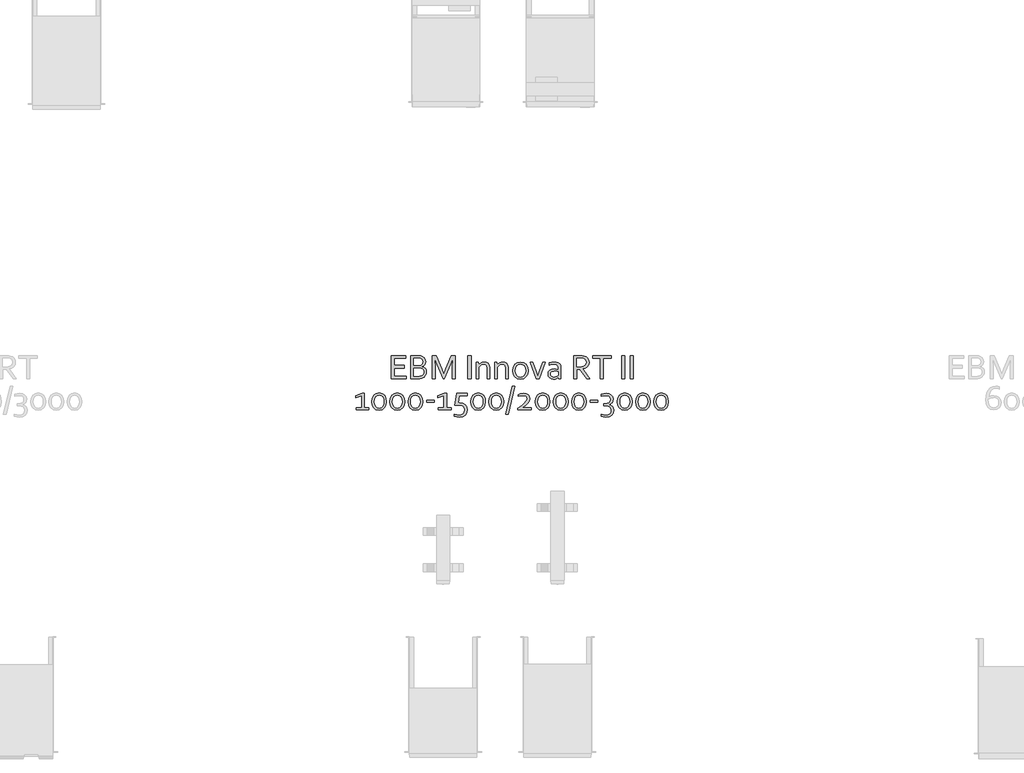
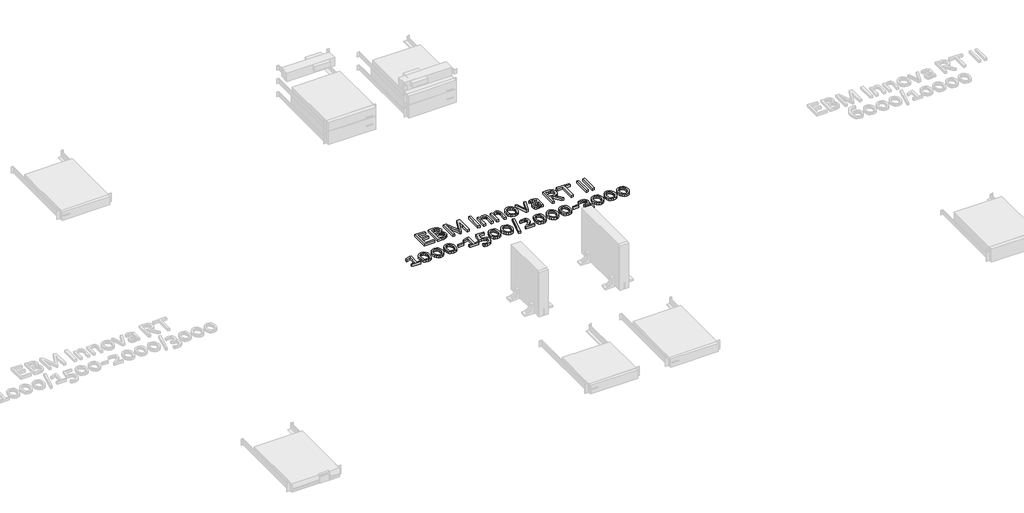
# One storey, part 6 of 14: 1 proxy.
"""IFC4 building model written with IfcOpenShell, lengths in millimetres."""

from ifc_helpers import new_model, si_unit, origin, origin_with_axes, place, context, project, spatial, polyline, outline, extrude, element, save

model = new_model("IFC4")

# Units and contexts
model_context = context("Model", 3, world=origin())
ifc_project = project(units=[si_unit("LENGTHUNIT", "METRE", prefix="MILLI")], contexts=[model_context])

# Site, building, storey
site = spatial("IfcSite", under=ifc_project)
building = spatial("IfcBuilding", under=site)
storey = spatial("IfcBuildingStorey", under=building, Name="Этаж 01", Elevation=0.0)

# Proxy
placement = place(None, origin())
element("IfcBuildingElementProxy", 1, Name="150 мм Corbel", ObjectType="150 мм Corbel", at=placement, inside=storey, context=model_context, shape_type="SweptSolid", body=[
    extrude(outline(polyline([(11846.1475563, -7548.6877316), (11923.0607134, -7548.6877316), (11923.0607134, -7565.4878752), (11826.5473888, -7565.4878752), (11826.5473888, -7414.2865833), (11918.9044279, -7414.2865833), (11918.9044279, -7431.0867269), (11846.1475563, -7431.0867269), (11846.1475563, -7478.6871335), (11910.8543591, -7478.6871335), (11910.8543591, -7495.4872771), (11846.1475563, -7495.4872771), (11846.1475563, -7548.6877316)])), origin_with_axes(), (0.0, 0.0, 1.0), 20.0),
    extrude(outline(polyline([(12023.8615746, -7486.1246971), (12036.3523063, -7490.1278563), (12045.7586367, -7497.1497913), (12051.4899357, -7507.3217532), (12053.3493266, -7520.7749931), (12051.8399387, -7532.0407144), (12046.8086457, -7543.4814371), (12037.5773168, -7553.7190246), (12023.4240709, -7561.37534), (12009.0301979, -7564.5691173), (11990.0425357, -7565.4878752), (11952.5484653, -7565.4878752), (11952.5484653, -7414.2865833), (11988.9925267, -7414.2865833), (11998.0707293, -7414.4615848), (12005.5957936, -7414.9647141), (12011.9833481, -7415.7959712), (12017.5615208, -7416.9553561), (12030.0303773, -7422.1616506), (12039.5679588, -7430.0148427), (12045.6273856, -7440.3836813), (12047.7492787, -7453.0056641), (12046.4586427, -7463.4838786), (12042.3023572, -7472.7370827), (12034.908544, -7480.3277726), (12023.8615746, -7486.1246971)]), holes=[polyline([(11999.2738645, -7478.6871335), (12008.3083167, -7478.1840042), (12015.1990006, -7476.7183667), (12027.186603, -7468.1214183), (12030.9491352, -7454.3181753), (12027.0116015, -7440.9961865), (12014.6739961, -7433.2742455), (12005.0489139, -7431.5898561), (11992.1425536, -7431.0867269), (11972.1486328, -7431.0867269), (11972.1486328, -7478.6871335), (11999.2738645, -7478.6871335)]), polyline([(11972.1486328, -7495.4872771), (11972.1486328, -7548.6877316), (11993.4550648, -7548.6877316), (12007.5426852, -7547.9439753), (12018.5677794, -7545.5814551), (12027.0116015, -7541.1845425), (12032.5897742, -7535.2344917), (12035.6304252, -7528.3219326), (12036.549183, -7520.9062443), (12035.5647996, -7512.7030492), (12032.3710223, -7505.8342405), (12026.5303474, -7500.5185701), (12017.5177704, -7496.9747898), (12010.0802069, -7495.8372801), (11999.7551187, -7495.4872771), (11972.1486328, -7495.4872771)])]), origin_with_axes(), (0.0, 0.0, 1.0), 20.0),
    extrude(outline(polyline([(12169.5940697, -7565.4878752), (12161.1064972, -7565.4878752), (12124.093681, -7475.1871036), (12108.6935494, -7434.6305071), (12109.349805, -7492.3810005), (12109.349805, -7565.4878752), (12089.7496375, -7565.4878752), (12089.7496375, -7414.2865833), (12116.2186137, -7414.2865833), (12151.6564165, -7499.8185641), (12165.0440309, -7535.2126165), (12179.0004001, -7499.8185641), (12214.4819532, -7414.2865833), (12240.9509294, -7414.2865833), (12240.9509294, -7565.4878752), (12221.3507619, -7565.4878752), (12221.3507619, -7492.3810005), (12222.9257754, -7434.6305071), (12206.606886, -7475.1871036), (12169.5940697, -7565.4878752)])), origin_with_axes(), (0.0, 0.0, 1.0), 20.0),
    extrude(outline(polyline([(12322.1516232, -7565.4878752), (12322.1516232, -7414.2865833), (12341.7517906, -7414.2865833), (12341.7517906, -7565.4878752), (12322.1516232, -7565.4878752)])), origin_with_axes(), (0.0, 0.0, 1.0), 20.0),
    extrude(outline(polyline([(12392.0647205, -7473.8745924), (12398.7804029, -7467.0057837), (12406.633595, -7461.3838607), (12416.1493013, -7457.6213286), (12427.4150225, -7456.2869422), (12441.0213888, -7458.2994594), (12452.0246078, -7464.7963899), (12459.4184209, -7476.4996149), (12462.1528193, -7494.2622666), (12462.1528193, -7565.4878752), (12445.3526758, -7565.4878752), (12445.3526758, -7496.4060349), (12444.0073518, -7484.4457765), (12439.9713798, -7476.3902389), (12433.3650733, -7471.8128561), (12424.308746, -7470.2870618), (12406.7648461, -7475.5152314), (12392.1522212, -7489.8872292), (12392.1522212, -7565.4878752), (12375.3520777, -7565.4878752), (12375.3520777, -7459.0869661), (12388.6959417, -7459.0869661), (12392.0647205, -7473.8745924)])), origin_with_axes(), (0.0, 0.0, 1.0), 20.0),
    extrude(outline(polyline([(12512.4657492, -7473.8745924), (12519.1814315, -7467.0057837), (12527.0346236, -7461.3838607), (12536.5503299, -7457.6213286), (12547.8160512, -7456.2869422), (12561.4224174, -7458.2994594), (12572.4256364, -7464.7963899), (12579.8194496, -7476.4996149), (12582.553848, -7494.2622666), (12582.553848, -7565.4878752), (12565.7537044, -7565.4878752), (12565.7537044, -7496.4060349), (12564.4083805, -7484.4457765), (12560.3724085, -7476.3902389), (12553.766102, -7471.8128561), (12544.7097746, -7470.2870618), (12527.1658748, -7475.5152314), (12512.5532499, -7489.8872292), (12512.5532499, -7565.4878752), (12495.7531064, -7565.4878752), (12495.7531064, -7459.0869661), (12509.0969704, -7459.0869661), (12512.4657492, -7473.8745924)])), origin_with_axes(), (0.0, 0.0, 1.0), 20.0),
    extrude(outline(polyline([(12711.3549484, -7512.4186717), (12707.789293, -7535.2344917), (12697.6829566, -7552.8877675), (12681.8671965, -7564.2628647), (12661.0857689, -7568.2878991), (12639.8887128, -7564.2628647), (12624.0073272, -7552.8877675), (12614.0103667, -7535.2344917), (12610.5540872, -7512.4186717), (12614.1197427, -7489.4278503), (12624.226079, -7471.7308241), (12640.1074647, -7460.3119765), (12660.9545178, -7456.2869422), (12682.0640732, -7460.3119765), (12697.9454589, -7471.7308241), (12707.8986689, -7489.4278503), (12711.3549484, -7512.4186717)]), holes=[polyline([(12694.5548049, -7512.4186717), (12692.0610336, -7494.546644), (12685.082849, -7481.312156), (12674.429633, -7473.0870857), (12660.9545178, -7470.2870618), (12647.4794027, -7473.0870857), (12636.8261867, -7481.312156), (12629.8480021, -7494.546644), (12627.3542307, -7512.4186717), (12629.8480021, -7530.1594483), (12636.8918122, -7543.3283108), (12647.5887786, -7551.4877555), (12661.0857689, -7554.2877795), (12674.4952585, -7551.4877555), (12685.082849, -7543.3283108), (12692.0610336, -7530.1594483), (12694.5548049, -7512.4186717)])]), origin_with_axes(), (0.0, 0.0, 1.0), 20.0),
    extrude(outline(polyline([(12774.267986, -7547.9002249), (12785.0305779, -7518.2374715), (12806.5557618, -7459.0869661), (12823.3559054, -7459.0869661), (12783.3243133, -7565.4878752), (12765.3866601, -7565.4878752), (12725.3550681, -7459.0869661), (12742.1552116, -7459.0869661), (12763.5491444, -7518.2374715), (12774.267986, -7547.9002249)])), origin_with_axes(), (0.0, 0.0, 1.0), 20.0),
    extrude(outline(polyline([(12907.8816275, -7553.7190246), (12902.084703, -7559.034695), (12894.6690146, -7563.7597354), (12885.4814361, -7567.0628886), (12874.8500953, -7568.2878991), (12860.8281005, -7566.0347548), (12849.8686319, -7559.4065732), (12842.7154458, -7548.7533572), (12840.1560489, -7534.5126105), (12842.9998232, -7520.5124909), (12850.9623912, -7510.0342764), (12863.2781214, -7503.4060947), (12879.1813823, -7501.0873249), (12894.4283876, -7502.5748376), (12906.9191193, -7505.9436164), (12907.356623, -7498.3310514), (12906.7878682, -7489.9966052), (12904.8628517, -7483.6309258), (12895.5877725, -7474.0714691), (12878.3063748, -7470.2870618), (12863.1031199, -7471.7745745), (12848.949874, -7475.8871096), (12848.949874, -7462.1932426), (12855.271803, -7459.8088472), (12862.9499936, -7457.905706), (12871.4594413, -7456.7025707), (12880.4501432, -7456.2869422), (12895.0846432, -7457.7142981), (12906.7003674, -7461.9963659), (12915.3629414, -7468.6300164), (12921.1379908, -7477.1121201), (12923.4567606, -7485.0090626), (12924.1567666, -7494.4810185), (12924.1567666, -7565.4878752), (12909.7628936, -7565.4878752), (12907.8816275, -7553.7190246)]), holes=[polyline([(12907.356623, -7519.0687286), (12895.7408988, -7516.4655813), (12880.9751476, -7515.0874445), (12863.3218718, -7519.8562353), (12858.5476123, -7525.9047245), (12856.9561924, -7534.5126105), (12858.5530811, -7543.2626853), (12862.9281185, -7549.4533632), (12869.5125497, -7553.0846442), (12877.6501192, -7554.2877795), (12888.2377097, -7552.6471404), (12896.9440341, -7548.731482), (12903.4190894, -7544.1814431), (12907.356623, -7540.6376628), (12907.356623, -7519.0687286)])]), origin_with_axes(), (0.0, 0.0, 1.0), 20.0),
    extrude(outline(polyline([(13024.9576278, -7503.8873488), (13024.9576278, -7565.4878752), (13005.3574603, -7565.4878752), (13005.3574603, -7414.2865833), (13044.3390434, -7414.2865833), (13061.1391869, -7415.0303397), (13073.783045, -7417.3928599), (13087.6737886, -7423.2554099), (13097.8457505, -7432.1804862), (13104.0801788, -7443.9383992), (13106.1583216, -7458.2994594), (13103.2489217, -7474.880851), (13095.0676018, -7487.5684594), (13082.445619, -7496.3622846), (13066.1267295, -7501.3935775), (13111.7583694, -7565.4878752), (13092.158202, -7565.4878752), (13046.7015636, -7503.8873488), (13024.9576278, -7503.8873488)]), holes=[polyline([(13024.9576278, -7431.0867269), (13024.9576278, -7487.0872053), (13042.6327788, -7487.0872053), (13056.6766488, -7486.5184504), (13067.1329881, -7484.4621829), (13081.5049859, -7474.9683518), (13086.5581541, -7457.9494564), (13081.7237378, -7442.111821), (13068.6642512, -7433.4929974), (13059.2360457, -7431.6554817), (13045.2578012, -7431.0867269), (13024.9576278, -7431.0867269)])]), origin_with_axes(), (0.0, 0.0, 1.0), 20.0),
    extrude(outline(polyline([(13198.559111, -7565.4878752), (13178.9589436, -7565.4878752), (13178.9589436, -7431.0867269), (13128.8647656, -7431.0867269), (13128.8647656, -7414.2865833), (13248.653289, -7414.2865833), (13248.653289, -7431.0867269), (13198.559111, -7431.0867269), (13198.559111, -7565.4878752)])), origin_with_axes(), (0.0, 0.0, 1.0), 20.0),
    extrude(outline(polyline([(13316.1601158, -7565.4878752), (13316.1601158, -7414.2865833), (13335.7602832, -7414.2865833), (13335.7602832, -7565.4878752), (13316.1601158, -7565.4878752)])), origin_with_axes(), (0.0, 0.0, 1.0), 20.0),
    extrude(outline(polyline([(13372.1605942, -7565.4878752), (13372.1605942, -7414.2865833), (13391.7607617, -7414.2865833), (13391.7607617, -7565.4878752), (13372.1605942, -7565.4878752)])), origin_with_axes(), (0.0, 0.0, 1.0), 20.0),
    extrude(outline(polyline([(11634.7457501, -7751.8881861), (11634.7457501, -7673.4875163), (11594.2766543, -7687.4876359), (11594.2766543, -7673.4875163), (11637.0207695, -7659.4873967), (11651.5458936, -7659.4873967), (11651.5458936, -7751.8881861), (11680.9023944, -7751.8881861), (11680.9023944, -7765.8883058), (11598.9579443, -7765.8883058), (11598.9579443, -7751.8881861), (11634.7457501, -7751.8881861)])), origin_with_axes(), (0.0, 0.0, 1.0), 20.0),
    extrude(outline(polyline([(11794.3471137, -7712.8191023), (11791.1314612, -7734.9130411), (11781.7907564, -7752.6538177), (11766.8937541, -7764.4226682), (11746.8342077, -7768.6883297), (11726.380908, -7764.4226682), (11711.4182802, -7752.6538177), (11702.2525768, -7734.9130411), (11699.1463003, -7712.8191023), (11702.3619528, -7690.5720373), (11711.7026576, -7672.7656351), (11726.6652854, -7660.9530342), (11746.746707, -7656.6873728), (11767.112506, -7660.9530342), (11782.0751338, -7672.7656351), (11791.2408371, -7690.5720373), (11794.3471137, -7712.8191023)]), holes=[polyline([(11777.5469701, -7712.8191023), (11775.3594515, -7695.1658265), (11769.1687736, -7681.9313384), (11759.499941, -7673.5968922), (11746.746707, -7670.6874924), (11733.993473, -7673.5968922), (11724.28089, -7681.9313384), (11718.0902122, -7695.1658265), (11715.9464438, -7712.8191023), (11718.1339625, -7730.3192519), (11724.3246404, -7743.5099896), (11734.0590986, -7751.7788102), (11746.8779581, -7754.6882101), (11759.6093169, -7751.7788102), (11769.2781495, -7743.5099896), (11775.4032018, -7730.3192519), (11777.5469701, -7712.8191023)])]), origin_with_axes(), (0.0, 0.0, 1.0), 20.0),
    extrude(outline(polyline([(11911.9481184, -7712.8191023), (11908.732466, -7734.9130411), (11899.3917612, -7752.6538177), (11884.4947589, -7764.4226682), (11864.4352125, -7768.6883297), (11843.9819128, -7764.4226682), (11829.0192849, -7752.6538177), (11819.8535816, -7734.9130411), (11816.7473051, -7712.8191023), (11819.9629575, -7690.5720373), (11829.3036623, -7672.7656351), (11844.2662902, -7660.9530342), (11864.3477118, -7656.6873728), (11884.7135108, -7660.9530342), (11899.6761386, -7672.7656351), (11908.8418419, -7690.5720373), (11911.9481184, -7712.8191023)]), holes=[polyline([(11895.1479749, -7712.8191023), (11892.9604562, -7695.1658265), (11886.7697783, -7681.9313384), (11877.1009457, -7673.5968922), (11864.3477118, -7670.6874924), (11851.5944778, -7673.5968922), (11841.8818948, -7681.9313384), (11835.6912169, -7695.1658265), (11833.5474486, -7712.8191023), (11835.7349673, -7730.3192519), (11841.9256452, -7743.5099896), (11851.6601034, -7751.7788102), (11864.4789629, -7754.6882101), (11877.2103217, -7751.7788102), (11886.8791543, -7743.5099896), (11893.0042066, -7730.3192519), (11895.1479749, -7712.8191023)])]), origin_with_axes(), (0.0, 0.0, 1.0), 20.0),
    extrude(outline(polyline([(12029.5491232, -7712.8191023), (12026.3334707, -7734.9130411), (12016.9927659, -7752.6538177), (12002.0957637, -7764.4226682), (11982.0362173, -7768.6883297), (11961.5829175, -7764.4226682), (11946.6202897, -7752.6538177), (11937.4545864, -7734.9130411), (11934.3483098, -7712.8191023), (11937.5639623, -7690.5720373), (11946.9046671, -7672.7656351), (11961.8672949, -7660.9530342), (11981.9487165, -7656.6873728), (12002.3145155, -7660.9530342), (12017.2771434, -7672.7656351), (12026.4428467, -7690.5720373), (12029.5491232, -7712.8191023)]), holes=[polyline([(12012.7489797, -7712.8191023), (12010.561461, -7695.1658265), (12004.3707831, -7681.9313384), (11994.7019505, -7673.5968922), (11981.9487165, -7670.6874924), (11969.1954826, -7673.5968922), (11959.4828996, -7681.9313384), (11953.2922217, -7695.1658265), (11951.1484534, -7712.8191023), (11953.3359721, -7730.3192519), (11959.5266499, -7743.5099896), (11969.2611081, -7751.7788102), (11982.0799676, -7754.6882101), (11994.8113264, -7751.7788102), (12004.480159, -7743.5099896), (12010.6052114, -7730.3192519), (12012.7489797, -7712.8191023)])]), origin_with_axes(), (0.0, 0.0, 1.0), 20.0),
    extrude(outline(polyline([(12054.224334, -7704.2877795), (12103.6622564, -7704.2877795), (12103.6622564, -7718.2878991), (12054.224334, -7718.2878991), (12054.224334, -7704.2877795)])), origin_with_axes(), (0.0, 0.0, 1.0), 20.0),
    extrude(outline(polyline([(12166.7502954, -7751.8881861), (12166.7502954, -7673.4875163), (12126.2811997, -7687.4876359), (12126.2811997, -7673.4875163), (12169.0253149, -7659.4873967), (12183.550439, -7659.4873967), (12183.550439, -7751.8881861), (12212.9069398, -7751.8881861), (12212.9069398, -7765.8883058), (12130.9624897, -7765.8883058), (12130.9624897, -7751.8881861), (12166.7502954, -7751.8881861)])), origin_with_axes(), (0.0, 0.0, 1.0), 20.0),
    extrude(outline(polyline([(12317.9515873, -7765.7570546), (12314.4734326, -7784.8103424), (12304.2795955, -7799.9260966), (12287.3482008, -7809.9011818), (12264.1386275, -7813.4887125), (12247.8853636, -7812.0011997), (12233.99462, -7807.4511609), (12233.99462, -7793.888545), (12249.679129, -7798.3292079), (12263.3511208, -7799.4885928), (12279.9543876, -7796.8635704), (12291.7232382, -7789.7103843), (12298.7889235, -7779.1665442), (12301.1514437, -7766.5445614), (12298.6576724, -7752.6100673), (12290.8482307, -7742.8318588), (12277.1981141, -7737.0130591), (12257.0948173, -7735.0880426), (12237.3196484, -7736.2255523), (12247.9509892, -7659.4873967), (12319.0015962, -7659.4873967), (12319.0015962, -7673.4875163), (12264.7511327, -7673.4875163), (12258.4948293, -7721.3066749), (12264.7511327, -7721.087923), (12287.5013271, -7724.1066988), (12304.1920947, -7732.8348984), (12314.4515574, -7746.835018), (12317.9515873, -7765.7570546)])), origin_with_axes(), (0.0, 0.0, 1.0), 20.0),
    extrude(outline(polyline([(12435.552592, -7712.8191023), (12432.3369396, -7734.9130411), (12422.9962347, -7752.6538177), (12408.0992325, -7764.4226682), (12388.0396861, -7768.6883297), (12367.5863863, -7764.4226682), (12352.6237585, -7752.6538177), (12343.4580552, -7734.9130411), (12340.3517787, -7712.8191023), (12343.5674311, -7690.5720373), (12352.9081359, -7672.7656351), (12367.8707638, -7660.9530342), (12387.9521853, -7656.6873728), (12408.3179843, -7660.9530342), (12423.2806122, -7672.7656351), (12432.4463155, -7690.5720373), (12435.552592, -7712.8191023)]), holes=[polyline([(12418.7524485, -7712.8191023), (12416.5649298, -7695.1658265), (12410.3742519, -7681.9313384), (12400.7054193, -7673.5968922), (12387.9521853, -7670.6874924), (12375.1989514, -7673.5968922), (12365.4863684, -7681.9313384), (12359.2956905, -7695.1658265), (12357.1519222, -7712.8191023), (12359.3394409, -7730.3192519), (12365.5301188, -7743.5099896), (12375.2645769, -7751.7788102), (12388.0834365, -7754.6882101), (12400.8147952, -7751.7788102), (12410.4836278, -7743.5099896), (12416.6086802, -7730.3192519), (12418.7524485, -7712.8191023)])]), origin_with_axes(), (0.0, 0.0, 1.0), 20.0),
    extrude(outline(polyline([(12553.1535968, -7712.8191023), (12549.9379443, -7734.9130411), (12540.5972395, -7752.6538177), (12525.7002372, -7764.4226682), (12505.6406908, -7768.6883297), (12485.1873911, -7764.4226682), (12470.2247633, -7752.6538177), (12461.05906, -7734.9130411), (12457.9527834, -7712.8191023), (12461.1684359, -7690.5720373), (12470.5091407, -7672.7656351), (12485.4717685, -7660.9530342), (12505.5531901, -7656.6873728), (12525.9189891, -7660.9530342), (12540.8816169, -7672.7656351), (12550.0473203, -7690.5720373), (12553.1535968, -7712.8191023)]), holes=[polyline([(12536.3534533, -7712.8191023), (12534.1659346, -7695.1658265), (12527.9752567, -7681.9313384), (12518.3064241, -7673.5968922), (12505.5531901, -7670.6874924), (12492.7999561, -7673.5968922), (12483.0873732, -7681.9313384), (12476.8966953, -7695.1658265), (12474.752927, -7712.8191023), (12476.9404456, -7730.3192519), (12483.1311235, -7743.5099896), (12492.8655817, -7751.7788102), (12505.6844412, -7754.6882101), (12518.4158, -7751.7788102), (12528.0846326, -7743.5099896), (12534.2096849, -7730.3192519), (12536.3534533, -7712.8191023)])]), origin_with_axes(), (0.0, 0.0, 1.0), 20.0),
    extrude(outline(polyline([(12566.3662097, -7793.888545), (12608.9790738, -7614.6870139), (12625.5604654, -7614.6870139), (12582.9476013, -7793.888545), (12566.3662097, -7793.888545)])), origin_with_axes(), (0.0, 0.0, 1.0), 20.0),
    extrude(outline(polyline([(12673.3358736, -7752.3256899), (12696.5235717, -7751.8881861), (12730.2113595, -7751.8881861), (12730.2113595, -7765.8883058), (12644.941881, -7765.8883058), (12644.941881, -7756.3507243), (12668.7202092, -7738.5661973), (12687.4891195, -7722.7504372), (12699.8704753, -7708.0065612), (12704.3548886, -7693.5689379), (12702.785344, -7684.9610518), (12698.07671, -7678.6500604), (12690.4258634, -7674.7781523), (12680.0296808, -7673.4875163), (12663.0545358, -7675.084405), (12646.0793907, -7679.0875642), (12646.0793907, -7667.012461), (12661.8295253, -7661.7405409), (12682.392201, -7659.4873967), (12698.5360889, -7661.7186658), (12710.7643184, -7668.2155963), (12718.442509, -7678.7594363), (12721.1550322, -7693.2626853), (12717.6112519, -7709.6253251), (12707.8111682, -7724.2379499), (12692.5860381, -7738.063068), (12673.3358736, -7752.3256899)])), origin_with_axes(), (0.0, 0.0, 1.0), 20.0),
    extrude(outline(polyline([(12852.7561565, -7712.8191023), (12849.5405041, -7734.9130411), (12840.1997993, -7752.6538177), (12825.302797, -7764.4226682), (12805.2432506, -7768.6883297), (12784.7899509, -7764.4226682), (12769.827323, -7752.6538177), (12760.6616197, -7734.9130411), (12757.5553432, -7712.8191023), (12760.7709956, -7690.5720373), (12770.1117004, -7672.7656351), (12785.0743283, -7660.9530342), (12805.1557499, -7656.6873728), (12825.5215489, -7660.9530342), (12840.4841767, -7672.7656351), (12849.64988, -7690.5720373), (12852.7561565, -7712.8191023)]), holes=[polyline([(12835.956013, -7712.8191023), (12833.7684943, -7695.1658265), (12827.5778164, -7681.9313384), (12817.9089838, -7673.5968922), (12805.1557499, -7670.6874924), (12792.4025159, -7673.5968922), (12782.6899329, -7681.9313384), (12776.499255, -7695.1658265), (12774.3554867, -7712.8191023), (12776.5430054, -7730.3192519), (12782.7336833, -7743.5099896), (12792.4681415, -7751.7788102), (12805.287001, -7754.6882101), (12818.0183597, -7751.7788102), (12827.6871924, -7743.5099896), (12833.8122447, -7730.3192519), (12835.956013, -7712.8191023)])]), origin_with_axes(), (0.0, 0.0, 1.0), 20.0),
    extrude(outline(polyline([(12970.3571613, -7712.8191023), (12967.1415088, -7734.9130411), (12957.800804, -7752.6538177), (12942.9038017, -7764.4226682), (12922.8442554, -7768.6883297), (12902.3909556, -7764.4226682), (12887.4283278, -7752.6538177), (12878.2626245, -7734.9130411), (12875.1563479, -7712.8191023), (12878.3720004, -7690.5720373), (12887.7127052, -7672.7656351), (12902.675333, -7660.9530342), (12922.7567546, -7656.6873728), (12943.1225536, -7660.9530342), (12958.0851815, -7672.7656351), (12967.2508848, -7690.5720373), (12970.3571613, -7712.8191023)]), holes=[polyline([(12953.5570178, -7712.8191023), (12951.3694991, -7695.1658265), (12945.1788212, -7681.9313384), (12935.5099886, -7673.5968922), (12922.7567546, -7670.6874924), (12910.0035207, -7673.5968922), (12900.2909377, -7681.9313384), (12894.1002598, -7695.1658265), (12891.9564915, -7712.8191023), (12894.1440102, -7730.3192519), (12900.334688, -7743.5099896), (12910.0691462, -7751.7788102), (12922.8880057, -7754.6882101), (12935.6193645, -7751.7788102), (12945.2881971, -7743.5099896), (12951.4132495, -7730.3192519), (12953.5570178, -7712.8191023)])]), origin_with_axes(), (0.0, 0.0, 1.0), 20.0),
    extrude(outline(polyline([(13087.9581661, -7712.8191023), (13084.7425136, -7734.9130411), (13075.4018088, -7752.6538177), (13060.5048065, -7764.4226682), (13040.4452601, -7768.6883297), (13019.9919604, -7764.4226682), (13005.0293325, -7752.6538177), (12995.8636292, -7734.9130411), (12992.7573527, -7712.8191023), (12995.9730052, -7690.5720373), (13005.31371, -7672.7656351), (13020.2763378, -7660.9530342), (13040.3577594, -7656.6873728), (13060.7235584, -7660.9530342), (13075.6861862, -7672.7656351), (13084.8518895, -7690.5720373), (13087.9581661, -7712.8191023)]), holes=[polyline([(13071.1580225, -7712.8191023), (13068.9705038, -7695.1658265), (13062.7798259, -7681.9313384), (13053.1109933, -7673.5968922), (13040.3577594, -7670.6874924), (13027.6045254, -7673.5968922), (13017.8919424, -7681.9313384), (13011.7012645, -7695.1658265), (13009.5574962, -7712.8191023), (13011.7450149, -7730.3192519), (13017.9356928, -7743.5099896), (13027.670151, -7751.7788102), (13040.4890105, -7754.6882101), (13053.2203693, -7751.7788102), (13062.8892019, -7743.5099896), (13069.0142542, -7730.3192519), (13071.1580225, -7712.8191023)])]), origin_with_axes(), (0.0, 0.0, 1.0), 20.0),
    extrude(outline(polyline([(13112.6333769, -7704.2877795), (13162.0712993, -7704.2877795), (13162.0712993, -7718.2878991), (13112.6333769, -7718.2878991), (13112.6333769, -7704.2877795)])), origin_with_axes(), (0.0, 0.0, 1.0), 20.0),
    extrude(outline(polyline([(13235.8781799, -7732.6817721), (13247.2532771, -7735.8099238), (13256.8783593, -7742.5256062), (13264.1190462, -7753.2663229), (13267.1596971, -7768.2070756), (13263.9440447, -7786.8884852), (13254.4064632, -7801.1948574), (13238.1750745, -7810.2949352), (13215.2717538, -7813.4887125), (13197.9247306, -7811.9574494), (13183.2902306, -7807.4511609), (13183.2902306, -7793.888545), (13199.2372418, -7798.1760816), (13214.002993, -7799.4885928), (13231.2843906, -7796.9073208), (13242.4407359, -7790.1041377), (13248.5001627, -7780.3259291), (13250.3595536, -7768.7320801), (13247.9040639, -7755.9296269), (13240.5375947, -7747.2725217), (13228.7742129, -7742.3341983), (13213.1279855, -7740.6880905), (13201.2278838, -7740.6880905), (13201.2278838, -7726.6879708), (13208.1841933, -7726.6879708), (13224.7437097, -7724.5004522), (13236.1188069, -7718.4629006), (13242.681363, -7709.384698), (13244.7595058, -7698.1189768), (13242.4626111, -7687.0938826), (13236.1844325, -7679.4375671), (13226.8218525, -7674.9531538), (13215.2717538, -7673.4875163), (13199.8934974, -7674.9969042), (13184.6464922, -7679.0875642), (13184.6464922, -7665.612449), (13202.190392, -7660.8217831), (13216.934268, -7659.4873967), (13236.3375588, -7662.3530462), (13250.293928, -7670.3812398), (13258.6502494, -7682.5875941), (13261.5596493, -7698.1189768), (13260.2033877, -7709.0128198), (13255.7627248, -7718.8129036), (13247.8001567, -7726.8410972), (13235.8781799, -7732.6817721)])), origin_with_axes(), (0.0, 0.0, 1.0), 20.0),
    extrude(outline(polyline([(13384.7607019, -7712.8191023), (13381.5450494, -7734.9130411), (13372.2043446, -7752.6538177), (13357.3073423, -7764.4226682), (13337.247796, -7768.6883297), (13316.7944962, -7764.4226682), (13301.8318684, -7752.6538177), (13292.6661651, -7734.9130411), (13289.5598885, -7712.8191023), (13292.775541, -7690.5720373), (13302.1162458, -7672.7656351), (13317.0788736, -7660.9530342), (13337.1602952, -7656.6873728), (13357.5260942, -7660.9530342), (13372.488722, -7672.7656351), (13381.6544254, -7690.5720373), (13384.7607019, -7712.8191023)]), holes=[polyline([(13367.9605584, -7712.8191023), (13365.7730397, -7695.1658265), (13359.5823618, -7681.9313384), (13349.9135292, -7673.5968922), (13337.1602952, -7670.6874924), (13324.4070612, -7673.5968922), (13314.6944783, -7681.9313384), (13308.5038004, -7695.1658265), (13306.3600321, -7712.8191023), (13308.5475507, -7730.3192519), (13314.7382286, -7743.5099896), (13324.4726868, -7751.7788102), (13337.2915463, -7754.6882101), (13350.0229051, -7751.7788102), (13359.6917377, -7743.5099896), (13365.81679, -7730.3192519), (13367.9605584, -7712.8191023)])]), origin_with_axes(), (0.0, 0.0, 1.0), 20.0),
    extrude(outline(polyline([(13502.3617067, -7712.8191023), (13499.1460542, -7734.9130411), (13489.8053494, -7752.6538177), (13474.9083471, -7764.4226682), (13454.8488007, -7768.6883297), (13434.395501, -7764.4226682), (13419.4328731, -7752.6538177), (13410.2671698, -7734.9130411), (13407.1608933, -7712.8191023), (13410.3765458, -7690.5720373), (13419.7172506, -7672.7656351), (13434.6798784, -7660.9530342), (13454.7613, -7656.6873728), (13475.127099, -7660.9530342), (13490.0897268, -7672.7656351), (13499.2554301, -7690.5720373), (13502.3617067, -7712.8191023)]), holes=[polyline([(13485.5615631, -7712.8191023), (13483.3740444, -7695.1658265), (13477.1833665, -7681.9313384), (13467.5145339, -7673.5968922), (13454.7613, -7670.6874924), (13442.008066, -7673.5968922), (13432.295483, -7681.9313384), (13426.1048051, -7695.1658265), (13423.9610368, -7712.8191023), (13426.1485555, -7730.3192519), (13432.3392334, -7743.5099896), (13442.0736916, -7751.7788102), (13454.8925511, -7754.6882101), (13467.6239099, -7751.7788102), (13477.2927425, -7743.5099896), (13483.4177948, -7730.3192519), (13485.5615631, -7712.8191023)])]), origin_with_axes(), (0.0, 0.0, 1.0), 20.0),
    extrude(outline(polyline([(13619.9627114, -7712.8191023), (13616.7470589, -7734.9130411), (13607.4063541, -7752.6538177), (13592.5093519, -7764.4226682), (13572.4498055, -7768.6883297), (13551.9965057, -7764.4226682), (13537.0338779, -7752.6538177), (13527.8681746, -7734.9130411), (13524.761898, -7712.8191023), (13527.9775505, -7690.5720373), (13537.3182553, -7672.7656351), (13552.2808832, -7660.9530342), (13572.3623047, -7656.6873728), (13592.7281037, -7660.9530342), (13607.6907316, -7672.7656351), (13616.8564349, -7690.5720373), (13619.9627114, -7712.8191023)]), holes=[polyline([(13603.1625679, -7712.8191023), (13600.9750492, -7695.1658265), (13594.7843713, -7681.9313384), (13585.1155387, -7673.5968922), (13572.3623047, -7670.6874924), (13559.6090708, -7673.5968922), (13549.8964878, -7681.9313384), (13543.7058099, -7695.1658265), (13541.5620416, -7712.8191023), (13543.7495603, -7730.3192519), (13549.9402382, -7743.5099896), (13559.6746963, -7751.7788102), (13572.4935559, -7754.6882101), (13585.2249146, -7751.7788102), (13594.8937472, -7743.5099896), (13601.0187996, -7730.3192519), (13603.1625679, -7712.8191023)])]), origin_with_axes(), (0.0, 0.0, 1.0), 20.0),
])

save(model, "model.ifc")
